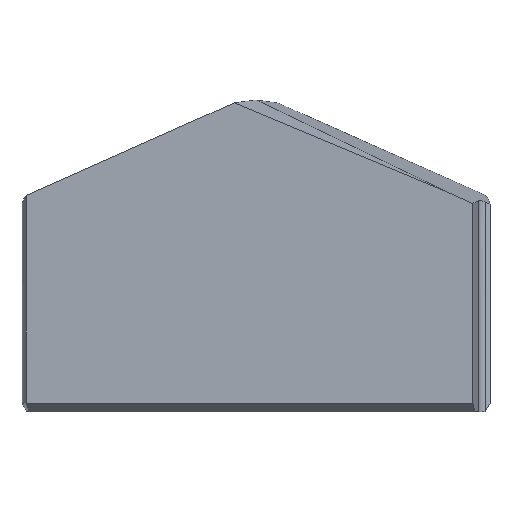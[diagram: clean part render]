
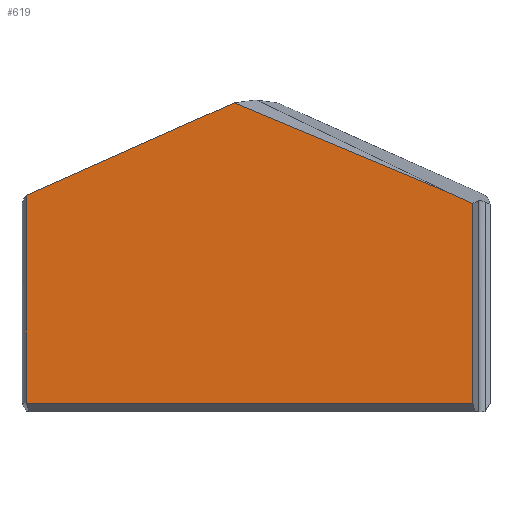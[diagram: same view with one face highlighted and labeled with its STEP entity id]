
A CAD part, top view. The second image highlights one B-rep face of the part: STEP entity #619.
In plain terms, the highlighted planar face has unit normal (0, 0, 1).
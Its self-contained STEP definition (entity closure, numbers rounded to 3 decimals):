
#13 = LINE ( 'NONE', #66, #232 ) ;
#22 = DIRECTION ( 'NONE',  ( -0.914, -0.407, 0. ) ) ;
#26 = EDGE_CURVE ( 'NONE', #638, #593, #248, .T. ) ;
#29 = VECTOR ( 'NONE', #345, 1000. ) ;
#60 = AXIS2_PLACEMENT_3D ( 'NONE', #346, #631, #296 ) ;
#66 = CARTESIAN_POINT ( 'NONE',  ( 3.803, 9.084, 3.2 ) ) ;
#68 = CARTESIAN_POINT ( 'NONE',  ( -8.178, 0.296, 3.2 ) ) ;
#69 = LINE ( 'NONE', #254, #320 ) ;
#75 = FACE_OUTER_BOUND ( 'NONE', #422, .T. ) ;
#92 = CARTESIAN_POINT ( 'NONE',  ( 6.853, 7.807, 3.2 ) ) ;
#102 = CARTESIAN_POINT ( 'NONE',  ( 7.723, 0., 3.2 ) ) ;
#106 = CARTESIAN_POINT ( 'NONE',  ( 8.003, 0.289, 3.2 ) ) ;
#113 = ORIENTED_EDGE ( 'NONE', *, *, #439, .T. ) ;
#125 = EDGE_CURVE ( 'NONE', #514, #198, #209, .T. ) ;
#151 = ORIENTED_EDGE ( 'NONE', *, *, #520, .T. ) ;
#156 = ORIENTED_EDGE ( 'NONE', *, *, #419, .T. ) ;
#158 = ORIENTED_EDGE ( 'NONE', *, *, #197, .T. ) ;
#166 = ORIENTED_EDGE ( 'NONE', *, *, #125, .T. ) ;
#178 = DIRECTION ( 'NONE',  ( 0., 1., 0. ) ) ;
#183 = PLANE ( 'NONE',  #60 ) ;
#197 = EDGE_CURVE ( 'NONE', #408, #514, #487, .T. ) ;
#198 = VERTEX_POINT ( 'NONE', #92 ) ;
#209 = LINE ( 'NONE', #634, #290 ) ;
#232 = VECTOR ( 'NONE', #461, 1000. ) ;
#248 = LINE ( 'NONE', #332, #608 ) ;
#254 = CARTESIAN_POINT ( 'NONE',  ( 0., 11.35, 3.2 ) ) ;
#282 = CARTESIAN_POINT ( 'NONE',  ( -8.173, 0.289, 3.2 ) ) ;
#290 = VECTOR ( 'NONE', #385, 1000. ) ;
#294 = CARTESIAN_POINT ( 'NONE',  ( -8.18, 0.3, 3.2 ) ) ;
#296 = DIRECTION ( 'NONE',  ( 1., 0., 0. ) ) ;
#320 = VECTOR ( 'NONE', #22, 1000. ) ;
#330 = CARTESIAN_POINT ( 'NONE',  ( -8.18, 7.708, 3.2 ) ) ;
#332 = CARTESIAN_POINT ( 'NONE',  ( -8.18, 0., 3.2 ) ) ;
#345 = DIRECTION ( 'NONE',  ( 0., 1., 0. ) ) ;
#346 = CARTESIAN_POINT ( 'NONE',  ( 0., 0., 3.2 ) ) ;
#349 = VERTEX_POINT ( 'NONE', #504 ) ;
#378 = VERTEX_POINT ( 'NONE', #455 ) ;
#385 = DIRECTION ( 'NONE',  ( -0.914, 0.407, 0. ) ) ;
#402 = VECTOR ( 'NONE', #515, 1000. ) ;
#408 = VERTEX_POINT ( 'NONE', #460 ) ;
#412 = CARTESIAN_POINT ( 'NONE',  ( 7.723, 7.419, 3.2 ) ) ;
#419 = EDGE_CURVE ( 'NONE', #378, #593, #69, .T. ) ;
#421 = B_SPLINE_CURVE_WITH_KNOTS ( 'NONE', 3,
 ( #530, #68, #626, #282 ),
 .UNSPECIFIED., .F., .F.,
 ( 4, 4 ),
 ( 0., 0. ),
 .UNSPECIFIED. ) ;
#422 = EDGE_LOOP ( 'NONE', ( #166, #596, #156, #447, #151, #113, #158 ) ) ;
#439 = EDGE_CURVE ( 'NONE', #349, #408, #534, .T. ) ;
#447 = ORIENTED_EDGE ( 'NONE', *, *, #26, .F. ) ;
#455 = CARTESIAN_POINT ( 'NONE',  ( -0.781, 11.002, 3.2 ) ) ;
#460 = CARTESIAN_POINT ( 'NONE',  ( 7.723, 0.289, 3.2 ) ) ;
#461 = DIRECTION ( 'NONE',  ( -0.922, 0.386, 0. ) ) ;
#487 = LINE ( 'NONE', #102, #29 ) ;
#501 = EDGE_CURVE ( 'NONE', #198, #378, #13, .T. ) ;
#504 = CARTESIAN_POINT ( 'NONE',  ( -8.173, 0.289, 3.2 ) ) ;
#514 = VERTEX_POINT ( 'NONE', #412 ) ;
#515 = DIRECTION ( 'NONE',  ( 1., 0., 0. ) ) ;
#520 = EDGE_CURVE ( 'NONE', #638, #349, #421, .T. ) ;
#530 = CARTESIAN_POINT ( 'NONE',  ( -8.18, 0.3, 3.2 ) ) ;
#534 = LINE ( 'NONE', #106, #402 ) ;
#593 = VERTEX_POINT ( 'NONE', #330 ) ;
#596 = ORIENTED_EDGE ( 'NONE', *, *, #501, .T. ) ;
#608 = VECTOR ( 'NONE', #178, 1000. ) ;
#619 = ADVANCED_FACE ( 'NONE', ( #75 ), #183, .T. ) ;
#626 = CARTESIAN_POINT ( 'NONE',  ( -8.176, 0.292, 3.2 ) ) ;
#631 = DIRECTION ( 'NONE',  ( 0., 0., 1. ) ) ;
#634 = CARTESIAN_POINT ( 'NONE',  ( 4.034, 9.061, 3.2 ) ) ;
#638 = VERTEX_POINT ( 'NONE', #294 ) ;
